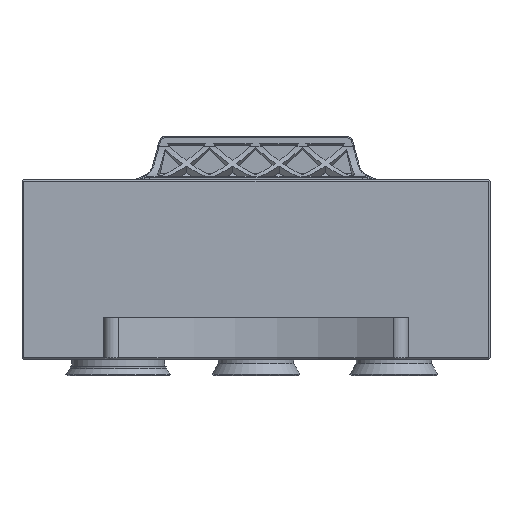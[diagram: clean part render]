
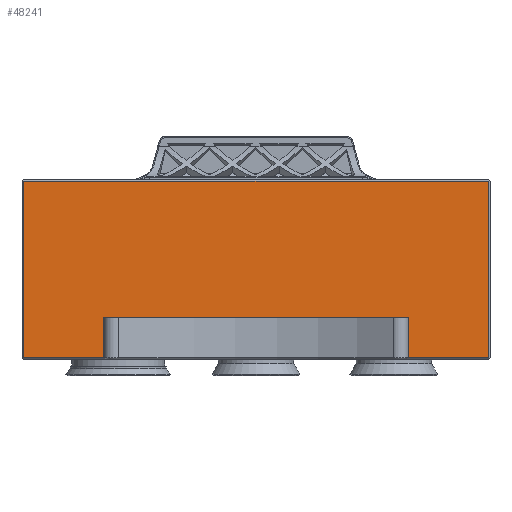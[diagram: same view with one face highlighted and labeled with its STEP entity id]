
A CAD part, front view. The second image highlights one B-rep face of the part: STEP entity #48241.
In plain terms, the highlighted planar face has unit normal (0, -1, 0).
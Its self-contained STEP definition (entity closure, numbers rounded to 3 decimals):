
#4569 = CARTESIAN_POINT ( 'NONE',  ( -120.666, -6.482, -15. ) ) ;
#4758 = VECTOR ( 'NONE', #95987, 1000. ) ;
#9196 = CARTESIAN_POINT ( 'NONE',  ( -120.666, -6.482, -27.5 ) ) ;
#9666 = DIRECTION ( 'NONE',  ( 0., -1., 0. ) ) ;
#10143 = CARTESIAN_POINT ( 'NONE',  ( -120.166, -6.482, -27.5 ) ) ;
#10353 = VECTOR ( 'NONE', #100429, 1000. ) ;
#11802 = AXIS2_PLACEMENT_3D ( 'NONE', #56399, #9666, #40268 ) ;
#12316 = VECTOR ( 'NONE', #90002, 1000. ) ;
#12397 = CARTESIAN_POINT ( 'NONE',  ( -0.166, -6.482, -15. ) ) ;
#14116 = VECTOR ( 'NONE', #56197, 1000. ) ;
#15555 = CARTESIAN_POINT ( 'NONE',  ( 24.834, -6.482, 27.5 ) ) ;
#15786 = VECTOR ( 'NONE', #53017, 1000. ) ;
#17643 = VERTEX_POINT ( 'NONE', #42316 ) ;
#22110 = ORIENTED_EDGE ( 'NONE', *, *, #96696, .T. ) ;
#23002 = VECTOR ( 'NONE', #66594, 1000. ) ;
#25182 = VECTOR ( 'NONE', #60171, 1000. ) ;
#29479 = EDGE_CURVE ( 'NONE', #84878, #57722, #67033, .T. ) ;
#30286 = EDGE_CURVE ( 'NONE', #17643, #41337, #30902, .T. ) ;
#30902 = LINE ( 'NONE', #71263, #60429 ) ;
#31481 = VERTEX_POINT ( 'NONE', #10143 ) ;
#32473 = CARTESIAN_POINT ( 'NONE',  ( -120.666, -6.482, 27.5 ) ) ;
#34445 = VERTEX_POINT ( 'NONE', #62900 ) ;
#35615 = CARTESIAN_POINT ( 'NONE',  ( -95.166, -6.482, -15. ) ) ;
#36032 = ORIENTED_EDGE ( 'NONE', *, *, #100345, .F. ) ;
#36510 = VERTEX_POINT ( 'NONE', #69379 ) ;
#39224 = FACE_OUTER_BOUND ( 'NONE', #61042, .T. ) ;
#40268 = DIRECTION ( 'NONE',  ( 0., 0., -1. ) ) ;
#41337 = VERTEX_POINT ( 'NONE', #15555 ) ;
#42316 = CARTESIAN_POINT ( 'NONE',  ( 24.834, -6.482, -27.5 ) ) ;
#48154 = DIRECTION ( 'NONE',  ( 0., 0., 1. ) ) ;
#48241 = ADVANCED_FACE ( 'NONE', ( #39224 ), #63984, .T. ) ;
#49993 = LINE ( 'NONE', #35615, #23002 ) ;
#51460 = ORIENTED_EDGE ( 'NONE', *, *, #29479, .F. ) ;
#53017 = DIRECTION ( 'NONE',  ( -1., 0., 0. ) ) ;
#54872 = ORIENTED_EDGE ( 'NONE', *, *, #88730, .F. ) ;
#56197 = DIRECTION ( 'NONE',  ( -1., 0., 0. ) ) ;
#56327 = CARTESIAN_POINT ( 'NONE',  ( -0.166, -6.482, -15. ) ) ;
#56399 = CARTESIAN_POINT ( 'NONE',  ( -120.666, -6.482, -28. ) ) ;
#56766 = EDGE_CURVE ( 'NONE', #41337, #76311, #79414, .T. ) ;
#57722 = VERTEX_POINT ( 'NONE', #56327 ) ;
#60052 = CARTESIAN_POINT ( 'NONE',  ( -120.166, -6.482, -28. ) ) ;
#60171 = DIRECTION ( 'NONE',  ( 0., 0., 1. ) ) ;
#60429 = VECTOR ( 'NONE', #48154, 1000. ) ;
#61042 = EDGE_LOOP ( 'NONE', ( #51460, #54872, #81950, #95072, #22110, #36032, #68024, #90712 ) ) ;
#62573 = LINE ( 'NONE', #9196, #4758 ) ;
#62900 = CARTESIAN_POINT ( 'NONE',  ( -95.166, -6.482, -15. ) ) ;
#63984 = PLANE ( 'NONE',  #11802 ) ;
#66594 = DIRECTION ( 'NONE',  ( 0., 0., -1. ) ) ;
#66693 = EDGE_CURVE ( 'NONE', #34445, #36510, #49993, .T. ) ;
#67033 = LINE ( 'NONE', #12397, #25182 ) ;
#68024 = ORIENTED_EDGE ( 'NONE', *, *, #66693, .F. ) ;
#69379 = CARTESIAN_POINT ( 'NONE',  ( -95.166, -6.482, -27.5 ) ) ;
#71263 = CARTESIAN_POINT ( 'NONE',  ( 24.834, -6.482, -28. ) ) ;
#73131 = LINE ( 'NONE', #60052, #10353 ) ;
#75726 = CARTESIAN_POINT ( 'NONE',  ( -120.166, -6.482, 27.5 ) ) ;
#76113 = CARTESIAN_POINT ( 'NONE',  ( -120.666, -6.482, -27.5 ) ) ;
#76311 = VERTEX_POINT ( 'NONE', #75726 ) ;
#77404 = CARTESIAN_POINT ( 'NONE',  ( -0.166, -6.482, -27.5 ) ) ;
#79414 = LINE ( 'NONE', #32473, #14116 ) ;
#80336 = EDGE_CURVE ( 'NONE', #34445, #57722, #101064, .T. ) ;
#81950 = ORIENTED_EDGE ( 'NONE', *, *, #30286, .T. ) ;
#84878 = VERTEX_POINT ( 'NONE', #77404 ) ;
#88730 = EDGE_CURVE ( 'NONE', #17643, #84878, #98292, .T. ) ;
#90002 = DIRECTION ( 'NONE',  ( 1., 0., 0. ) ) ;
#90712 = ORIENTED_EDGE ( 'NONE', *, *, #80336, .T. ) ;
#95072 = ORIENTED_EDGE ( 'NONE', *, *, #56766, .T. ) ;
#95987 = DIRECTION ( 'NONE',  ( -1., 0., 0. ) ) ;
#96696 = EDGE_CURVE ( 'NONE', #76311, #31481, #73131, .T. ) ;
#98292 = LINE ( 'NONE', #76113, #15786 ) ;
#100345 = EDGE_CURVE ( 'NONE', #36510, #31481, #62573, .T. ) ;
#100429 = DIRECTION ( 'NONE',  ( 0., 0., -1. ) ) ;
#101064 = LINE ( 'NONE', #4569, #12316 ) ;
